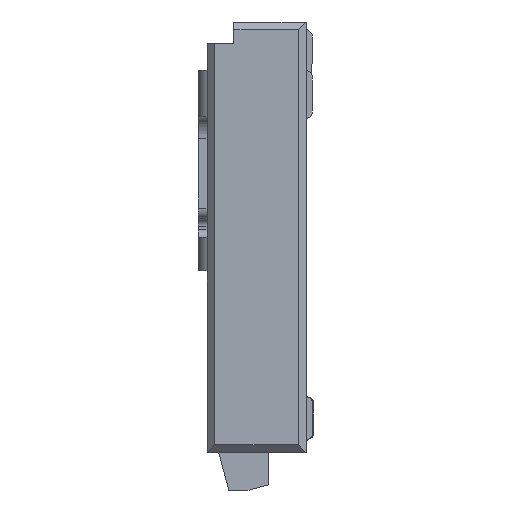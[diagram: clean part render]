
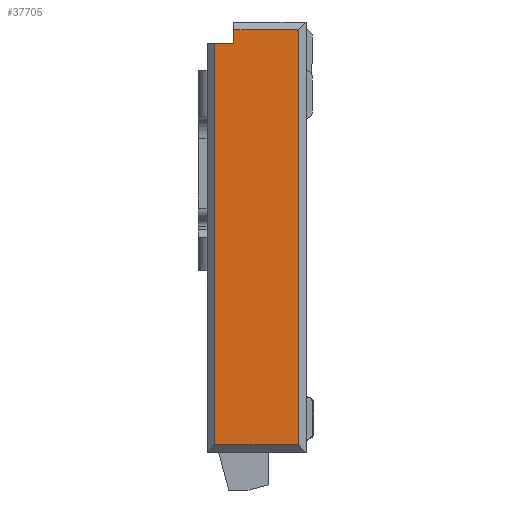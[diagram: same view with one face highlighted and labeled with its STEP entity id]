
A CAD part, left-side view. The second image highlights one B-rep face of the part: STEP entity #37705.
In plain terms, the highlighted planar face has unit normal (-1, 0, 0).
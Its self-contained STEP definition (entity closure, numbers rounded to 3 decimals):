
#11211 = VERTEX_POINT ( 'NONE', #15565 ) ;
#11213 = EDGE_CURVE ( 'NONE', #37728, #11211, #15601, .T. ) ;
#11218 = ORIENTED_EDGE ( 'NONE', *, *, #11213, .T. ) ;
#11219 = EDGE_CURVE ( 'NONE', #11211, #37733, #15597, .T. ) ;
#15565 = CARTESIAN_POINT ( 'NONE',  ( -4.25, 0.83, -3.23 ) ) ;
#15584 = DIRECTION ( 'NONE',  ( 0., -1., 0. ) ) ;
#15585 = VECTOR ( 'NONE', #15584, 1000. ) ;
#15596 = CARTESIAN_POINT ( 'NONE',  ( -4.25, 0.9, -3.23 ) ) ;
#15597 = LINE ( 'NONE', #15596, #15585 ) ;
#15598 = DIRECTION ( 'NONE',  ( 0., 0., -1. ) ) ;
#15599 = VECTOR ( 'NONE', #15598, 1000. ) ;
#15600 = CARTESIAN_POINT ( 'NONE',  ( -4.25, 0.83, 0.7 ) ) ;
#15601 = LINE ( 'NONE', #15600, #15599 ) ;
#37575 = VERTEX_POINT ( 'NONE', #49738 ) ;
#37698 = EDGE_LOOP ( 'NONE', ( #37766, #37710, #37719, #37702, #11218, #37725 ) ) ;
#37702 = ORIENTED_EDGE ( 'NONE', *, *, #37730, .F. ) ;
#37705 = ADVANCED_FACE ( 'NONE', ( #49900 ), #49842, .T. ) ;
#37710 = ORIENTED_EDGE ( 'NONE', *, *, #37714, .T. ) ;
#37714 = EDGE_CURVE ( 'NONE', #37741, #37575, #49881, .T. ) ;
#37715 = EDGE_CURVE ( 'NONE', #37733, #37741, #49875, .T. ) ;
#37716 = VERTEX_POINT ( 'NONE', #49830 ) ;
#37719 = ORIENTED_EDGE ( 'NONE', *, *, #37721, .T. ) ;
#37721 = EDGE_CURVE ( 'NONE', #37575, #37716, #49892, .T. ) ;
#37725 = ORIENTED_EDGE ( 'NONE', *, *, #11219, .T. ) ;
#37728 = VERTEX_POINT ( 'NONE', #49818 ) ;
#37730 = EDGE_CURVE ( 'NONE', #37728, #37716, #49869, .T. ) ;
#37733 = VERTEX_POINT ( 'NONE', #49948 ) ;
#37741 = VERTEX_POINT ( 'NONE', #49879 ) ;
#37766 = ORIENTED_EDGE ( 'NONE', *, *, #37715, .T. ) ;
#49738 = CARTESIAN_POINT ( 'NONE',  ( -4.25, 0.65, 0.63 ) ) ;
#49800 = VECTOR ( 'NONE', #49878, 1000. ) ;
#49804 = AXIS2_PLACEMENT_3D ( 'NONE', #49899, #49901, #49883 ) ;
#49818 = CARTESIAN_POINT ( 'NONE',  ( -4.25, 0.83, 0.5 ) ) ;
#49830 = CARTESIAN_POINT ( 'NONE',  ( -4.25, 0.65, 0.5 ) ) ;
#49842 = PLANE ( 'NONE',  #49804 ) ;
#49853 = DIRECTION ( 'NONE',  ( 0., -1., 0. ) ) ;
#49861 = DIRECTION ( 'NONE',  ( 0., 0., -1. ) ) ;
#49862 = VECTOR ( 'NONE', #49861, 1000. ) ;
#49866 = VECTOR ( 'NONE', #49853, 1000. ) ;
#49867 = CARTESIAN_POINT ( 'NONE',  ( -4.25, 0.9, 0.5 ) ) ;
#49869 = LINE ( 'NONE', #49867, #49866 ) ;
#49870 = DIRECTION ( 'NONE',  ( 0., 0., 1. ) ) ;
#49871 = VECTOR ( 'NONE', #49870, 1000. ) ;
#49872 = CARTESIAN_POINT ( 'NONE',  ( -4.25, 0.05, 0.7 ) ) ;
#49875 = LINE ( 'NONE', #49872, #49871 ) ;
#49878 = DIRECTION ( 'NONE',  ( 0., 1., 0. ) ) ;
#49879 = CARTESIAN_POINT ( 'NONE',  ( -4.25, 0.05, 0.63 ) ) ;
#49880 = CARTESIAN_POINT ( 'NONE',  ( -4.25, 0.9, 0.63 ) ) ;
#49881 = LINE ( 'NONE', #49880, #49800 ) ;
#49883 = DIRECTION ( 'NONE',  ( 0., 0., 1. ) ) ;
#49891 = CARTESIAN_POINT ( 'NONE',  ( -4.25, 0.65, 0.7 ) ) ;
#49892 = LINE ( 'NONE', #49891, #49862 ) ;
#49899 = CARTESIAN_POINT ( 'NONE',  ( -4.25, 0.9, 0.7 ) ) ;
#49900 = FACE_OUTER_BOUND ( 'NONE', #37698, .T. ) ;
#49901 = DIRECTION ( 'NONE',  ( -1., 0., 0. ) ) ;
#49948 = CARTESIAN_POINT ( 'NONE',  ( -4.25, 0.05, -3.23 ) ) ;
